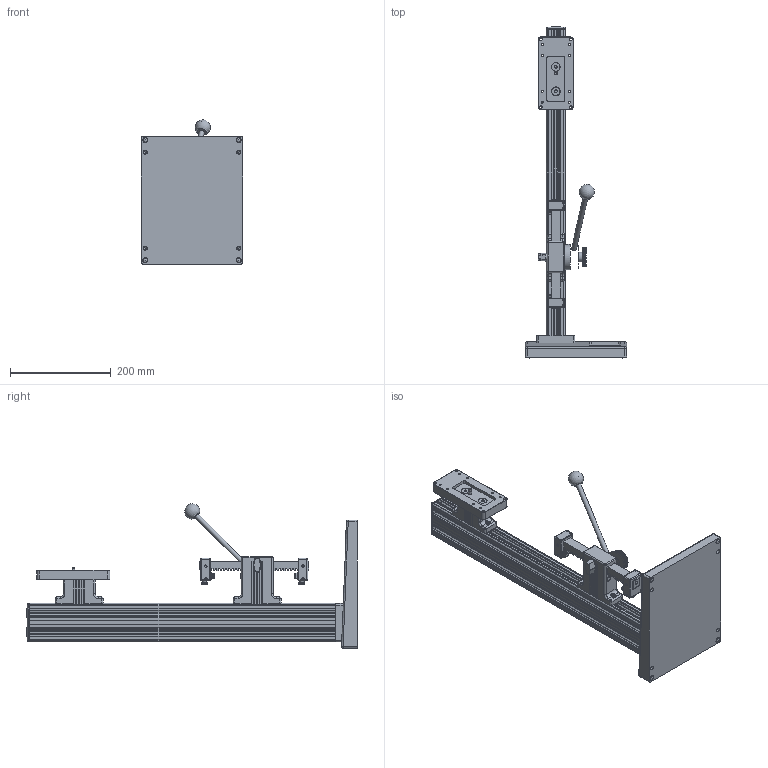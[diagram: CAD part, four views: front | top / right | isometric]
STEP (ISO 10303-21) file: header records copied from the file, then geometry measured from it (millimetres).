
FILE_DESCRIPTION(/* description */ (''),/* implementation_level */ '2;1');
FILE_NAME(/* name */ 'C:\Users\ntakaki\Desktop\750\750.step',/* time_stamp */ '2024-06-21T12:02:00-04:00',/* author */ ('ntakaki'),/* organization */ (''),/* preprocessor_version */ 'ST-DEVELOPER v18.1',/* originating_system */ 'AutoCAD Mechanical',/* authorisation */ '');
FILE_SCHEMA (('AUTOMOTIVE_DESIGN { 1 0 10303 214 3 1 1 }'));
Products named in the file (1): Product
Bounding box: 200.66 x 658.57 x 286.35 mm (x, y, z)
Volume: 3149183.2 mm3; surface area: 556233.7 mm2
Topology: 4 solids, 4 shells, 6373 faces, 15152 edges, 8844 vertices
Faces by surface type: plane 3870, cylinder 2227, cone 192, sphere 53, torus 23, bspline 8
Full cylindrical faces by diameter (mm): 4.039 x8, 4.75 x1, 4.826 x4, 5.207 x4, 5.74 x4, 6.223 x4, 6.35 x10, 6.528 x2, 7.112 x4, 7.925 x4, 7.938 x1, 8.382 x2, 8.636 x4, 9.525 x5, 9.652 x2, 10.16 x4, 10.668 x4, 12.7 x1, 12.827 x2, 17.653 x2, 19.05 x1, 50.292 x1
Entity records: 184315 total; most frequent: DIRECTION 35904, CARTESIAN_POINT 32826, ORIENTED_EDGE 30208, AXIS2_PLACEMENT_3D 15216, EDGE_CURVE 15104, VERTEX_POINT 8844, EDGE_LOOP 6512, FACE_OUTER_BOUND 6373
